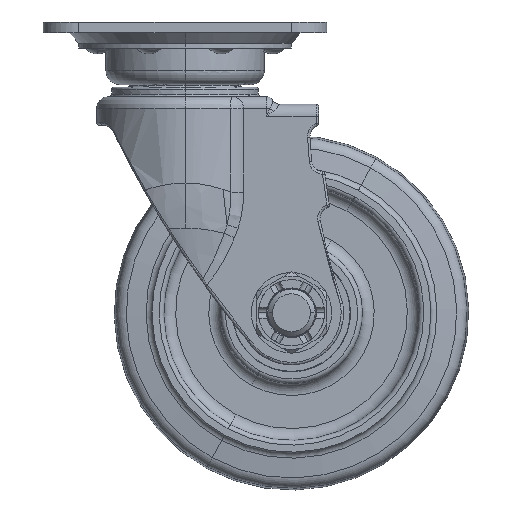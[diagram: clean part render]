
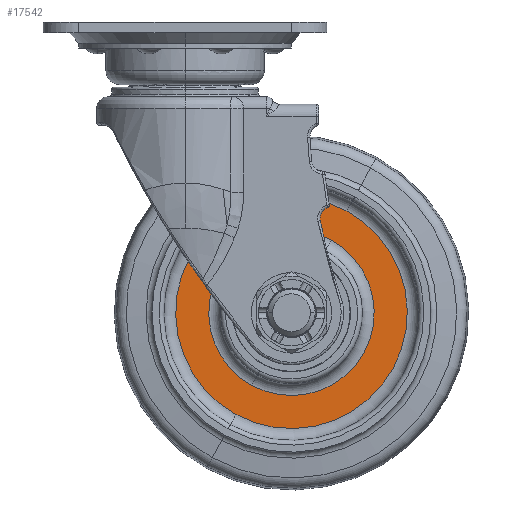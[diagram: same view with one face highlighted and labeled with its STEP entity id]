
A CAD part, front view. The second image highlights one B-rep face of the part: STEP entity #17542.
In plain terms, the highlighted planar face has unit normal (0, -1, 0).
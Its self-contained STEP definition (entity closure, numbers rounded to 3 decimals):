
#17450=AXIS2_PLACEMENT_3D('Circle Axis2P3D',#17448,#17449,$) ;
#17462=AXIS2_PLACEMENT_3D('Circle Axis2P3D',#17460,#17461,$) ;
#17518=AXIS2_PLACEMENT_3D('Plane Axis2P3D',#17515,#17516,#17517) ;
#17526=AXIS2_PLACEMENT_3D('Circle Axis2P3D',#17524,#17525,$) ;
#17535=AXIS2_PLACEMENT_3D('Circle Axis2P3D',#17533,#17534,$) ;
#17438=CARTESIAN_POINT('Vertex',(68.492,-5.,-79.998)) ;
#17445=CARTESIAN_POINT('Vertex',(21.508,-5.,-166.002)) ;
#17448=CARTESIAN_POINT('Axis2P3D Location',(45.,-5.,-123.)) ;
#17460=CARTESIAN_POINT('Axis2P3D Location',(45.,-5.,-123.)) ;
#17515=CARTESIAN_POINT('Axis2P3D Location',(45.,-5.,-74.)) ;
#17524=CARTESIAN_POINT('Axis2P3D Location',(45.,-5.,-123.)) ;
#17528=CARTESIAN_POINT('Vertex',(28.22,-5.,-153.715)) ;
#17530=CARTESIAN_POINT('Vertex',(61.78,-5.,-92.285)) ;
#17533=CARTESIAN_POINT('Axis2P3D Location',(45.,-5.,-123.)) ;
#17449=DIRECTION('Axis2P3D Direction',(-0.,1.,0.)) ;
#17461=DIRECTION('Axis2P3D Direction',(-0.,1.,0.)) ;
#17516=DIRECTION('Axis2P3D Direction',(-0.,1.,0.)) ;
#17517=DIRECTION('Axis2P3D XDirection',(1.,0.,0.)) ;
#17525=DIRECTION('Axis2P3D Direction',(-0.,1.,0.)) ;
#17534=DIRECTION('Axis2P3D Direction',(-0.,1.,0.)) ;
#17521=ORIENTED_EDGE('',*,*,#17464,.F.) ;
#17522=ORIENTED_EDGE('',*,*,#17452,.F.) ;
#17539=ORIENTED_EDGE('',*,*,#17532,.T.) ;
#17540=ORIENTED_EDGE('',*,*,#17537,.T.) ;
#17541=FACE_BOUND('',#17538,.T.) ;
#17542=ADVANCED_FACE('\X2\8ECA9AA867B6\X0\',(#17523,#17541),#17519,.F.) ;
#17451=CIRCLE('generated circle',#17450,49.) ;
#17463=CIRCLE('generated circle',#17462,49.) ;
#17527=CIRCLE('generated circle',#17526,35.) ;
#17536=CIRCLE('generated circle',#17535,35.) ;
#17452=EDGE_CURVE('',#17446,#17439,#17451,.T.) ;
#17464=EDGE_CURVE('',#17439,#17446,#17463,.T.) ;
#17532=EDGE_CURVE('',#17529,#17531,#17527,.T.) ;
#17537=EDGE_CURVE('',#17531,#17529,#17536,.T.) ;
#17520=EDGE_LOOP('',(#17521,#17522)) ;
#17538=EDGE_LOOP('',(#17539,#17540)) ;
#17523=FACE_OUTER_BOUND('',#17520,.T.) ;
#17519=PLANE('',#17518) ;
#17439=VERTEX_POINT('',#17438) ;
#17446=VERTEX_POINT('',#17445) ;
#17529=VERTEX_POINT('',#17528) ;
#17531=VERTEX_POINT('',#17530) ;
